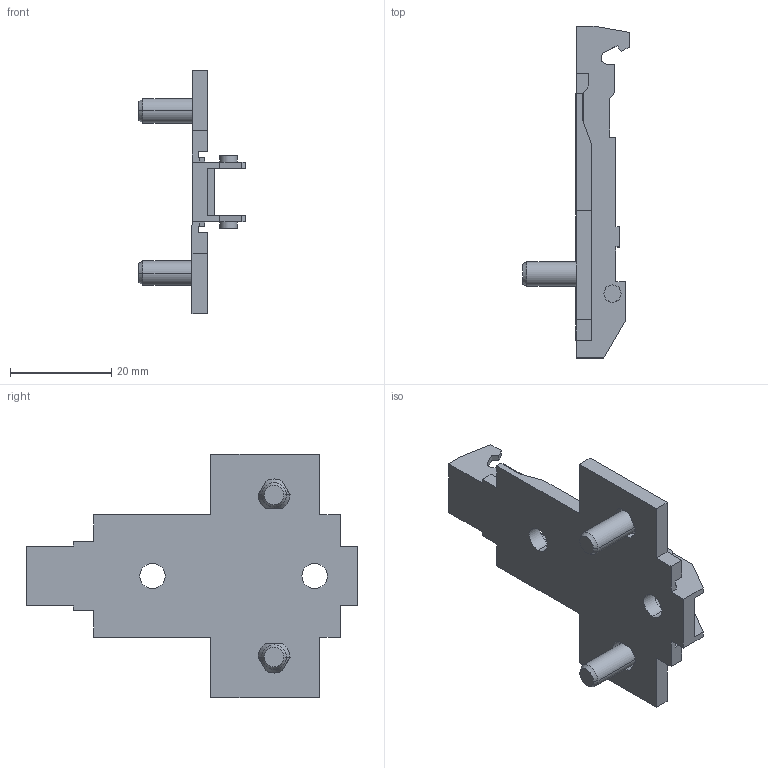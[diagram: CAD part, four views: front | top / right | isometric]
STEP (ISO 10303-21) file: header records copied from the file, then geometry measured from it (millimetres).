
FILE_DESCRIPTION (( 'STEP AP214' ), '1' );
FILE_NAME ('1D_Kreuzmontageplatte 28_32_Euro_vorgestellt 13,5_0.step', '2010-11-18T10:18:26', ( 'grass' ), ( '' ), 'SwSTEP 2.0', 'SolidWorks 2010', '' );
FILE_SCHEMA (( 'AUTOMOTIVE_DESIGN' ));
Length unit declared in the file: millimetre
Products named in the file (1): 1D_Kreuzmontageplatte 28_32_Euro_vorgestellt 13,5_0
Bounding box: 21 x 65.5 x 48 mm (x, y, z)
Volume: 6463.2 mm3; surface area: 6629.4 mm2
Topology: 1 solids, 1 shells, 138 faces, 390 edges, 254 vertices
Faces by surface type: plane 92, cylinder 34, cone 12
Entity records: 4550 total; most frequent: CARTESIAN_POINT 873, ORIENTED_EDGE 780, DIRECTION 730, EDGE_CURVE 390, VECTOR 292, LINE 292, VERTEX_POINT 254, AXIS2_PLACEMENT_3D 219
